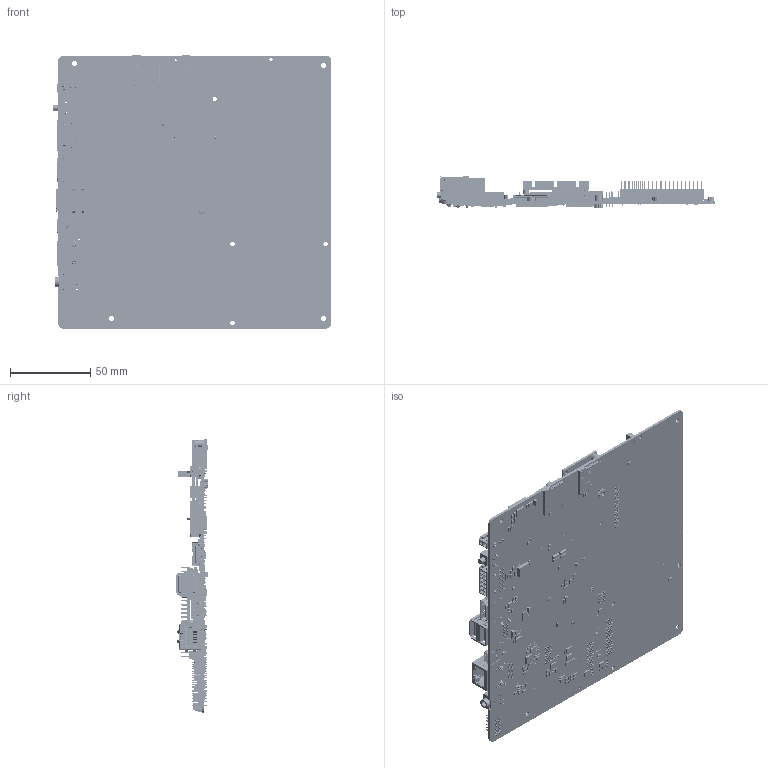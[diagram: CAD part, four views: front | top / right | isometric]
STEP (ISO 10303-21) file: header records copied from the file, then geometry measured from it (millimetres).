
FILE_DESCRIPTION((''),'2;1');
FILE_NAME('TN216-TN175-HEATSINK-ASM_ASM','2021-01-04T',('gary'),(''),'CREO PARAMETRIC BY PTC INC, 2014350','CREO PARAMETRIC BY PTC INC, 2014350','');
FILE_SCHEMA(('AUTOMOTIVE_DESIGN { 1 0 10303 214 1 1 1 1 }'));
Products named in the file (165): TN216-PCB; KRJ-14462-108XX; UT11113-11604-7H-327-0708-X2__1; UT11113-11604-7H-327-0708-X2__2; UT11113-11604-7H-327-0708-X2_1_ASM; AUDIO_PJD-035-47B; PIN_HOLDER_2X6_P254_H78_SMT; PIN_HOLDER_2X20_P254_H78_SMT; AAA-PCI-073-P08_6_1_2; PCI-E-MINI_6_1_2; CONN_33PIN_05P; HOUSING; SHELL; DUANZI2_2; DUANZI_2; DUANZI2_3; MICRO_SIM_CARD_40GI-001_1_ASM; PCIE-M2_KEYB-042; CP_M2-22_42; M2_CU_BOSS; M2_SCREW_NUT; PCIE-B50M20L043; CONN_DF40C-70DP-04V; CON_125P_2PIN; SWITCH_74X62_2_1_2; CONN_DF40HC-40DS-04V; MSBR-14; MSBR-13; MSBR-12; MSBR-11; MSBR-10; MSBR-9; MSBR-8; MSBR-7; MSBR-6; MSBR-5; MSBR-4; MSBR-3; MSBR-2; MSBR-1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
Assembly tree (1404 placements, depth 5):
  TN216-TN175-HEATSINK-ASM_ASM
    TN216-PCB-ASM_ASM
      TN216-PCB
      KRJ-14462-108XX
      UT11113-11604-7H-327-0708-X2_1_ASM
        UT11113-11604-7H-327-0708-X2__1
        UT11113-11604-7H-327-0708-X2__2
      AUDIO_PJD-035-47B
      PIN_HOLDER_2X6_P254_H78_SMT
      PIN_HOLDER_2X20_P254_H78_SMT
      AAA-PCI-073-P08_6_1_2
      PCI-E-MINI_6_1_2
      CONN_33PIN_05P  x2
      MICRO_SIM_CARD_40GI-001_1_ASM  x2
        HOUSING
        SHELL
        DUANZI2_2
        DUANZI_2
        DUANZI2_3
      PCIE-M2_KEYB-042
      CP_M2-22_42
      M2_CU_BOSS
      M2_SCREW_NUT
      PCIE-B50M20L043
      CONN_DF40C-70DP-04V
      CON_125P_2PIN  x3
      SWITCH_74X62_2_1_2
      CONN_DF40HC-40DS-04V  x2
      MWCSD03S012R_ASM
        MSBR-14
        MSBR-13
        MSBR-12
        MSBR-11
        MSBR-10
        MSBR-9
        MSBR-8
        MSBR-7
        MSBR-6
        MSBR-5
        MSBR-4
        MSBR-3
        MSBR-2
        MSBR-1
      2X1_1_1_2
      DUAL_USB_A_TYPE_90_DIP
      LVDS-40PIN-1_1_1_2
      PICO_AREA_ASM
        CONN_DF40C-70DP-04V  x3
      PINHEARD_2_0X32PIN
      51U-321N_ASM_1_ASM
        SHORT_4N_ASM
          SHHORTPIN_4N_7
          SHHORTPIN_4N_6
          SHHORTPIN_4N_5
          SHHORTPIN_4N_4
          SHHORTPIN_4N_3
          SHHORTPIN_4N_2
          SHHORTPIN_4N_1
          SHHORTPIN_4N
          SHHORTPIN_4N_8
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Bounding box: 173.4 x 20.17 x 170.26 mm (x, y, z)
Volume: 79959.5 mm3; surface area: 130326.2 mm2
Topology: 1401 solids, 1401 shells, 27579 faces, 70290 edges, 46135 vertices
Faces by surface type: plane 23112, cylinder 4012, torus 186, bspline 157, cone 99, extrusion 7, revolution 4, sphere 2
Entity records: 637693 total; most frequent: CARTESIAN_POINT 105070, DIRECTION 79117, ORIENTED_EDGE 78744, EDGE_CURVE 39372, PRESENTATION_STYLE_ASSIGNMENT 37338, STYLED_ITEM 37218, CURVE_STYLE 37135, VECTOR 31889
